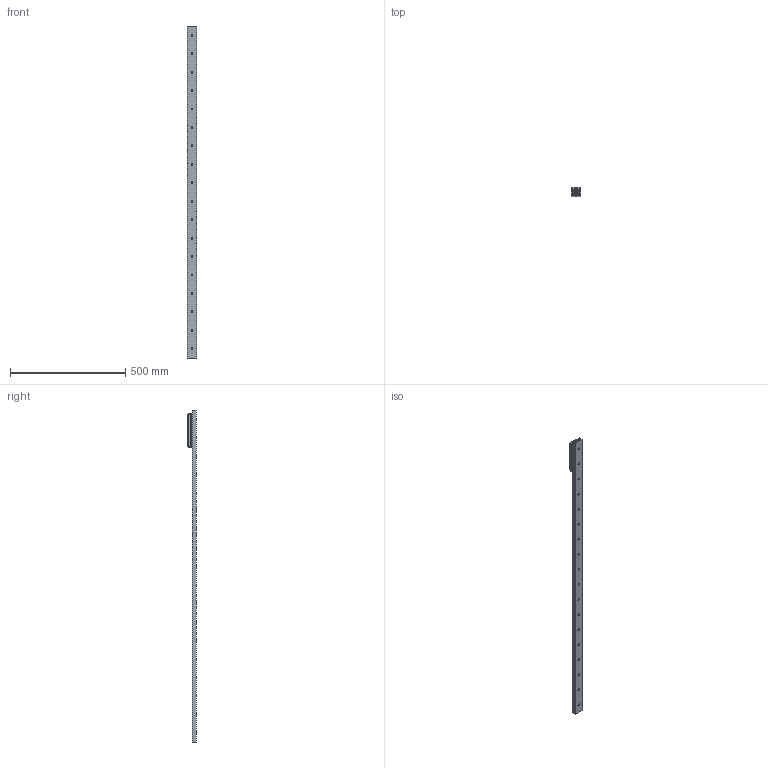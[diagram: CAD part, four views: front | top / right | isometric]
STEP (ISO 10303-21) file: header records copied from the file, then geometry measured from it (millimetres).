
FILE_DESCRIPTION( ( 'STEP AP214' ), '1' );
FILE_NAME( 'p:/temp/worker_49/temp/exporttempdir_3596_769_ezESM/format_2/TGV-01440_1_RV43G-3.stp', '2021-06-09T19:31:21', ( 'License CC BY-ND 4.0' ), ( 'CADENAS' ), ' ', 'PARTsolutions', ' ' );
FILE_SCHEMA( ( 'AUTOMOTIVE_DESIGN { 1 0 10303 214 1 1 1 1 }' ) );
Length unit declared in the file: millimetre
Products named in the file (6): TGV-01440/1/RV43G-3; _TGV43-1440-(3-1); _RVG43-3-slider; _RGNV43R; _RGAV43R; _WR43G-01
Assembly tree (7 placements, depth 2):
  TGV-01440/1/RV43G-3
    _TGV43-1440-(3-1)
    _RVG43-3-slider
    _RGNV43R  x2
    _RGAV43R
    _WR43G-01  x2
Bounding box: 43 x 37 x 1440 mm (x, y, z)
Volume: 648120.9 mm3; surface area: 260123.5 mm2
Topology: 7 solids, 7 shells, 1077 faces, 2814 edges, 1833 vertices
Faces by surface type: plane 663, cylinder 314, cone 57, bspline 34, torus 9
Full cylindrical faces by diameter (mm): 1.76 x4, 3 x8, 6 x4, 6.647 x4, 6.8 x3, 8 x3, 8.5 x18, 11 x11, 15 x6, 15.5 x1, 18.98 x2, 19 x1, 31.4 x6
Entity records: 25753 total; most frequent: CARTESIAN_POINT 4070, DIRECTION 3447, ORIENTED_EDGE 3172, EDGE_CURVE 1586, AXIS2_PLACEMENT_3D 1320, VERTEX_POINT 1105, EDGE_LOOP 905, LINE 807
